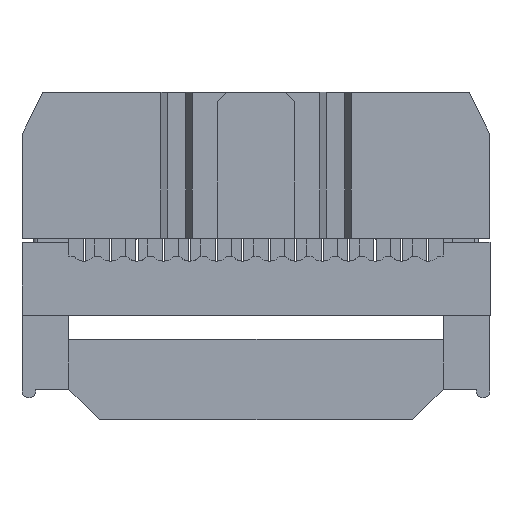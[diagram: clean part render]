
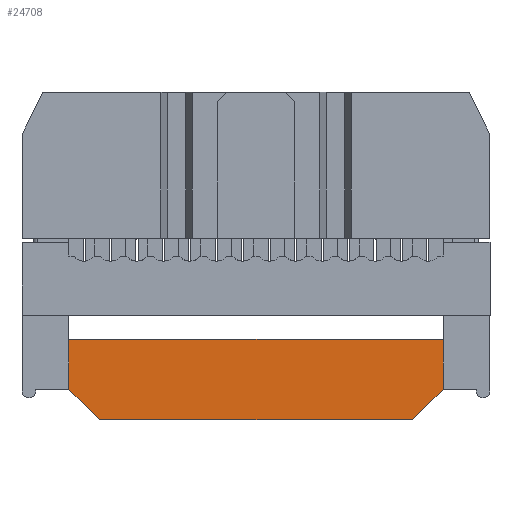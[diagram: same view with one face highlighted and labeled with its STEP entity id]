
A CAD part, front view. The second image highlights one B-rep face of the part: STEP entity #24708.
In plain terms, the highlighted planar face has unit normal (0, -1, 0).
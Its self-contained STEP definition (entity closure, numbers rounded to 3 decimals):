
#21846 = EDGE_CURVE('',#21847,#21849,#21851,.T.);
#21847 = VERTEX_POINT('',#21848);
#21848 = CARTESIAN_POINT('',(-7.615,-1.685,-1.365));
#21849 = VERTEX_POINT('',#21850);
#21850 = CARTESIAN_POINT('',(-7.41,-1.685,-1.45));
#21851 = SURFACE_CURVE('',#21852,(#21857,#21869),.PCURVE_S1.);
#21852 = CIRCLE('',#21853,0.29);
#21853 = AXIS2_PLACEMENT_3D('',#21854,#21855,#21856);
#21854 = CARTESIAN_POINT('',(-7.41,-1.685,-1.16));
#21855 = DIRECTION('',(0.,-1.,0.));
#21856 = DIRECTION('',(0.,0.,-1.));
#21857 = PCURVE('',#21858,#21863);
#21858 = CYLINDRICAL_SURFACE('',#21859,0.29);
#21859 = AXIS2_PLACEMENT_3D('',#21860,#21861,#21862);
#21860 = CARTESIAN_POINT('',(-7.41,-1.685,-1.16));
#21861 = DIRECTION('',(-0.,-1.,-0.));
#21862 = DIRECTION('',(0.,0.,1.));
#21863 = DEFINITIONAL_REPRESENTATION('',(#21864),#21868);
#21864 = LINE('',#21865,#21866);
#21865 = CARTESIAN_POINT('',(-3.142,0.));
#21866 = VECTOR('',#21867,1.);
#21867 = DIRECTION('',(1.,0.));
#21868 = ( GEOMETRIC_REPRESENTATION_CONTEXT(2) 
PARAMETRIC_REPRESENTATION_CONTEXT() REPRESENTATION_CONTEXT('2D SPACE',''
  ) );
#21869 = PCURVE('',#21870,#21875);
#21870 = PLANE('',#21871);
#21871 = AXIS2_PLACEMENT_3D('',#21872,#21873,#21874);
#21872 = CARTESIAN_POINT('',(-8.98,-1.685,0.));
#21873 = DIRECTION('',(0.,-1.,0.));
#21874 = DIRECTION('',(0.,0.,-1.));
#21875 = DEFINITIONAL_REPRESENTATION('',(#21876),#21880);
#21876 = CIRCLE('',#21877,0.29);
#21877 = AXIS2_PLACEMENT_2D('',#21878,#21879);
#21878 = CARTESIAN_POINT('',(1.16,1.57));
#21879 = DIRECTION('',(1.,0.));
#21880 = ( GEOMETRIC_REPRESENTATION_CONTEXT(2) 
PARAMETRIC_REPRESENTATION_CONTEXT() REPRESENTATION_CONTEXT('2D SPACE',''
  ) );
#21898 = PLANE('',#21899);
#21899 = AXIS2_PLACEMENT_3D('',#21900,#21901,#21902);
#21900 = CARTESIAN_POINT('',(-8.98,-1.685,0.));
#21901 = DIRECTION('',(-0.707,0.,-0.707));
#21902 = DIRECTION('',(-0.707,0.,0.707));
#21953 = PLANE('',#21954);
#21954 = AXIS2_PLACEMENT_3D('',#21955,#21956,#21957);
#21955 = CARTESIAN_POINT('',(-7.53,-1.685,-1.45));
#21956 = DIRECTION('',(0.,0.,-1.));
#21957 = DIRECTION('',(-1.,0.,0.));
#22497 = PLANE('',#22498);
#22498 = AXIS2_PLACEMENT_3D('',#22499,#22500,#22501);
#22499 = CARTESIAN_POINT('',(8.98,-3.,0.));
#22500 = DIRECTION('',(1.,0.,0.));
#22501 = DIRECTION('',(0.,0.,-1.));
#22881 = VERTEX_POINT('',#22882);
#22882 = CARTESIAN_POINT('',(8.98,-1.685,2.4));
#22896 = PLANE('',#22897);
#22897 = AXIS2_PLACEMENT_3D('',#22898,#22899,#22900);
#22898 = CARTESIAN_POINT('',(-8.98,-1.685,2.4));
#22899 = DIRECTION('',(0.,0.,-1.));
#22900 = DIRECTION('',(-1.,0.,0.));
#22908 = EDGE_CURVE('',#22909,#22881,#22911,.T.);
#22909 = VERTEX_POINT('',#22910);
#22910 = CARTESIAN_POINT('',(8.98,-1.685,0.));
#22911 = SURFACE_CURVE('',#22912,(#22916,#22923),.PCURVE_S1.);
#22912 = LINE('',#22913,#22914);
#22913 = CARTESIAN_POINT('',(8.98,-1.685,2.4));
#22914 = VECTOR('',#22915,1.);
#22915 = DIRECTION('',(0.,0.,1.));
#22916 = PCURVE('',#22497,#22917);
#22917 = DEFINITIONAL_REPRESENTATION('',(#22918),#22922);
#22918 = LINE('',#22919,#22920);
#22919 = CARTESIAN_POINT('',(-2.4,1.315));
#22920 = VECTOR('',#22921,1.);
#22921 = DIRECTION('',(-1.,0.));
#22922 = ( GEOMETRIC_REPRESENTATION_CONTEXT(2) 
PARAMETRIC_REPRESENTATION_CONTEXT() REPRESENTATION_CONTEXT('2D SPACE',''
  ) );
#22923 = PCURVE('',#21870,#22924);
#22924 = DEFINITIONAL_REPRESENTATION('',(#22925),#22929);
#22925 = LINE('',#22926,#22927);
#22926 = CARTESIAN_POINT('',(-2.4,17.96));
#22927 = VECTOR('',#22928,1.);
#22928 = DIRECTION('',(-1.,0.));
#22929 = ( GEOMETRIC_REPRESENTATION_CONTEXT(2) 
PARAMETRIC_REPRESENTATION_CONTEXT() REPRESENTATION_CONTEXT('2D SPACE',''
  ) );
#23356 = PLANE('',#23357);
#23357 = AXIS2_PLACEMENT_3D('',#23358,#23359,#23360);
#23358 = CARTESIAN_POINT('',(7.53,-1.685,-1.45));
#23359 = DIRECTION('',(0.707,0.,-0.707));
#23360 = DIRECTION('',(-0.707,0.,-0.707));
#23447 = PLANE('',#23448);
#23448 = AXIS2_PLACEMENT_3D('',#23449,#23450,#23451);
#23449 = CARTESIAN_POINT('',(-8.98,-3.,0.));
#23450 = DIRECTION('',(-1.,0.,0.));
#23451 = DIRECTION('',(0.,0.,1.));
#23460 = VERTEX_POINT('',#23461);
#23461 = CARTESIAN_POINT('',(-8.98,-1.685,0.));
#23624 = VERTEX_POINT('',#23625);
#23625 = CARTESIAN_POINT('',(-8.98,-1.685,2.4));
#23716 = EDGE_CURVE('',#23624,#23460,#23717,.T.);
#23717 = SURFACE_CURVE('',#23718,(#23722,#23729),.PCURVE_S1.);
#23718 = LINE('',#23719,#23720);
#23719 = CARTESIAN_POINT('',(-8.98,-1.685,0.));
#23720 = VECTOR('',#23721,1.);
#23721 = DIRECTION('',(0.,0.,-1.));
#23722 = PCURVE('',#23447,#23723);
#23723 = DEFINITIONAL_REPRESENTATION('',(#23724),#23728);
#23724 = LINE('',#23725,#23726);
#23725 = CARTESIAN_POINT('',(0.,1.315));
#23726 = VECTOR('',#23727,1.);
#23727 = DIRECTION('',(-1.,0.));
#23728 = ( GEOMETRIC_REPRESENTATION_CONTEXT(2) 
PARAMETRIC_REPRESENTATION_CONTEXT() REPRESENTATION_CONTEXT('2D SPACE',''
  ) );
#23729 = PCURVE('',#21870,#23730);
#23730 = DEFINITIONAL_REPRESENTATION('',(#23731),#23735);
#23731 = LINE('',#23732,#23733);
#23732 = CARTESIAN_POINT('',(0.,0.));
#23733 = VECTOR('',#23734,1.);
#23734 = DIRECTION('',(1.,0.));
#23735 = ( GEOMETRIC_REPRESENTATION_CONTEXT(2) 
PARAMETRIC_REPRESENTATION_CONTEXT() REPRESENTATION_CONTEXT('2D SPACE',''
  ) );
#23846 = CYLINDRICAL_SURFACE('',#23847,0.29);
#23847 = AXIS2_PLACEMENT_3D('',#23848,#23849,#23850);
#23848 = CARTESIAN_POINT('',(7.41,-1.685,-1.16));
#23849 = DIRECTION('',(-0.,-1.,-0.));
#23850 = DIRECTION('',(0.,0.,1.));
#23863 = EDGE_CURVE('',#21847,#23460,#23864,.T.);
#23864 = SURFACE_CURVE('',#23865,(#23869,#23876),.PCURVE_S1.);
#23865 = LINE('',#23866,#23867);
#23866 = CARTESIAN_POINT('',(-8.98,-1.685,0.));
#23867 = VECTOR('',#23868,1.);
#23868 = DIRECTION('',(-0.707,0.,0.707));
#23869 = PCURVE('',#21898,#23870);
#23870 = DEFINITIONAL_REPRESENTATION('',(#23871),#23875);
#23871 = LINE('',#23872,#23873);
#23872 = CARTESIAN_POINT('',(0.,0.));
#23873 = VECTOR('',#23874,1.);
#23874 = DIRECTION('',(1.,0.));
#23875 = ( GEOMETRIC_REPRESENTATION_CONTEXT(2) 
PARAMETRIC_REPRESENTATION_CONTEXT() REPRESENTATION_CONTEXT('2D SPACE',''
  ) );
#23876 = PCURVE('',#21870,#23877);
#23877 = DEFINITIONAL_REPRESENTATION('',(#23878),#23882);
#23878 = LINE('',#23879,#23880);
#23879 = CARTESIAN_POINT('',(0.,0.));
#23880 = VECTOR('',#23881,1.);
#23881 = DIRECTION('',(-0.707,-0.707));
#23882 = ( GEOMETRIC_REPRESENTATION_CONTEXT(2) 
PARAMETRIC_REPRESENTATION_CONTEXT() REPRESENTATION_CONTEXT('2D SPACE',''
  ) );
#24708 = ADVANCED_FACE('',(#24709),#21870,.T.);
#24709 = FACE_BOUND('',#24710,.T.);
#24710 = EDGE_LOOP('',(#24711,#24712,#24713,#24736,#24760,#24781,#24782,
    #24803));
#24711 = ORIENTED_EDGE('',*,*,#23863,.F.);
#24712 = ORIENTED_EDGE('',*,*,#21846,.T.);
#24713 = ORIENTED_EDGE('',*,*,#24714,.F.);
#24714 = EDGE_CURVE('',#24715,#21849,#24717,.T.);
#24715 = VERTEX_POINT('',#24716);
#24716 = CARTESIAN_POINT('',(7.41,-1.685,-1.45));
#24717 = SURFACE_CURVE('',#24718,(#24722,#24729),.PCURVE_S1.);
#24718 = LINE('',#24719,#24720);
#24719 = CARTESIAN_POINT('',(-7.53,-1.685,-1.45));
#24720 = VECTOR('',#24721,1.);
#24721 = DIRECTION('',(-1.,0.,0.));
#24722 = PCURVE('',#21870,#24723);
#24723 = DEFINITIONAL_REPRESENTATION('',(#24724),#24728);
#24724 = LINE('',#24725,#24726);
#24725 = CARTESIAN_POINT('',(1.45,1.45));
#24726 = VECTOR('',#24727,1.);
#24727 = DIRECTION('',(0.,-1.));
#24728 = ( GEOMETRIC_REPRESENTATION_CONTEXT(2) 
PARAMETRIC_REPRESENTATION_CONTEXT() REPRESENTATION_CONTEXT('2D SPACE',''
  ) );
#24729 = PCURVE('',#21953,#24730);
#24730 = DEFINITIONAL_REPRESENTATION('',(#24731),#24735);
#24731 = LINE('',#24732,#24733);
#24732 = CARTESIAN_POINT('',(0.,0.));
#24733 = VECTOR('',#24734,1.);
#24734 = DIRECTION('',(1.,0.));
#24735 = ( GEOMETRIC_REPRESENTATION_CONTEXT(2) 
PARAMETRIC_REPRESENTATION_CONTEXT() REPRESENTATION_CONTEXT('2D SPACE',''
  ) );
#24736 = ORIENTED_EDGE('',*,*,#24737,.T.);
#24737 = EDGE_CURVE('',#24715,#24738,#24740,.T.);
#24738 = VERTEX_POINT('',#24739);
#24739 = CARTESIAN_POINT('',(7.615,-1.685,-1.365));
#24740 = SURFACE_CURVE('',#24741,(#24746,#24753),.PCURVE_S1.);
#24741 = CIRCLE('',#24742,0.29);
#24742 = AXIS2_PLACEMENT_3D('',#24743,#24744,#24745);
#24743 = CARTESIAN_POINT('',(7.41,-1.685,-1.16));
#24744 = DIRECTION('',(0.,-1.,0.));
#24745 = DIRECTION('',(0.,0.,-1.));
#24746 = PCURVE('',#21870,#24747);
#24747 = DEFINITIONAL_REPRESENTATION('',(#24748),#24752);
#24748 = CIRCLE('',#24749,0.29);
#24749 = AXIS2_PLACEMENT_2D('',#24750,#24751);
#24750 = CARTESIAN_POINT('',(1.16,16.39));
#24751 = DIRECTION('',(1.,0.));
#24752 = ( GEOMETRIC_REPRESENTATION_CONTEXT(2) 
PARAMETRIC_REPRESENTATION_CONTEXT() REPRESENTATION_CONTEXT('2D SPACE',''
  ) );
#24753 = PCURVE('',#23846,#24754);
#24754 = DEFINITIONAL_REPRESENTATION('',(#24755),#24759);
#24755 = LINE('',#24756,#24757);
#24756 = CARTESIAN_POINT('',(3.142,0.));
#24757 = VECTOR('',#24758,1.);
#24758 = DIRECTION('',(1.,0.));
#24759 = ( GEOMETRIC_REPRESENTATION_CONTEXT(2) 
PARAMETRIC_REPRESENTATION_CONTEXT() REPRESENTATION_CONTEXT('2D SPACE',''
  ) );
#24760 = ORIENTED_EDGE('',*,*,#24761,.F.);
#24761 = EDGE_CURVE('',#22909,#24738,#24762,.T.);
#24762 = SURFACE_CURVE('',#24763,(#24767,#24774),.PCURVE_S1.);
#24763 = LINE('',#24764,#24765);
#24764 = CARTESIAN_POINT('',(7.53,-1.685,-1.45));
#24765 = VECTOR('',#24766,1.);
#24766 = DIRECTION('',(-0.707,0.,-0.707));
#24767 = PCURVE('',#21870,#24768);
#24768 = DEFINITIONAL_REPRESENTATION('',(#24769),#24773);
#24769 = LINE('',#24770,#24771);
#24770 = CARTESIAN_POINT('',(1.45,16.51));
#24771 = VECTOR('',#24772,1.);
#24772 = DIRECTION('',(0.707,-0.707));
#24773 = ( GEOMETRIC_REPRESENTATION_CONTEXT(2) 
PARAMETRIC_REPRESENTATION_CONTEXT() REPRESENTATION_CONTEXT('2D SPACE',''
  ) );
#24774 = PCURVE('',#23356,#24775);
#24775 = DEFINITIONAL_REPRESENTATION('',(#24776),#24780);
#24776 = LINE('',#24777,#24778);
#24777 = CARTESIAN_POINT('',(0.,0.));
#24778 = VECTOR('',#24779,1.);
#24779 = DIRECTION('',(1.,0.));
#24780 = ( GEOMETRIC_REPRESENTATION_CONTEXT(2) 
PARAMETRIC_REPRESENTATION_CONTEXT() REPRESENTATION_CONTEXT('2D SPACE',''
  ) );
#24781 = ORIENTED_EDGE('',*,*,#22908,.T.);
#24782 = ORIENTED_EDGE('',*,*,#24783,.T.);
#24783 = EDGE_CURVE('',#22881,#23624,#24784,.T.);
#24784 = SURFACE_CURVE('',#24785,(#24789,#24796),.PCURVE_S1.);
#24785 = LINE('',#24786,#24787);
#24786 = CARTESIAN_POINT('',(-8.98,-1.685,2.4));
#24787 = VECTOR('',#24788,1.);
#24788 = DIRECTION('',(-1.,0.,0.));
#24789 = PCURVE('',#21870,#24790);
#24790 = DEFINITIONAL_REPRESENTATION('',(#24791),#24795);
#24791 = LINE('',#24792,#24793);
#24792 = CARTESIAN_POINT('',(-2.4,0.));
#24793 = VECTOR('',#24794,1.);
#24794 = DIRECTION('',(0.,-1.));
#24795 = ( GEOMETRIC_REPRESENTATION_CONTEXT(2) 
PARAMETRIC_REPRESENTATION_CONTEXT() REPRESENTATION_CONTEXT('2D SPACE',''
  ) );
#24796 = PCURVE('',#22896,#24797);
#24797 = DEFINITIONAL_REPRESENTATION('',(#24798),#24802);
#24798 = LINE('',#24799,#24800);
#24799 = CARTESIAN_POINT('',(0.,0.));
#24800 = VECTOR('',#24801,1.);
#24801 = DIRECTION('',(1.,0.));
#24802 = ( GEOMETRIC_REPRESENTATION_CONTEXT(2) 
PARAMETRIC_REPRESENTATION_CONTEXT() REPRESENTATION_CONTEXT('2D SPACE',''
  ) );
#24803 = ORIENTED_EDGE('',*,*,#23716,.T.);
